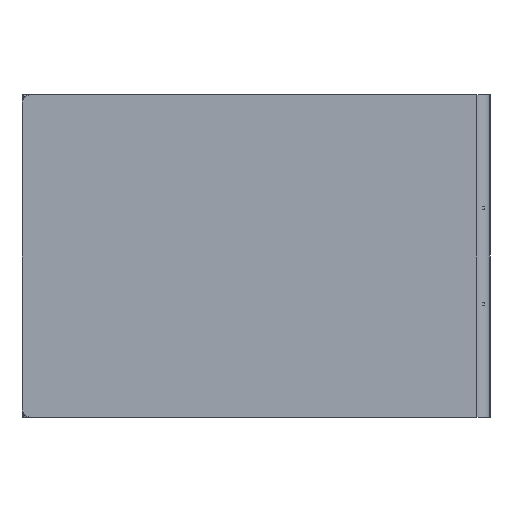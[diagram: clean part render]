
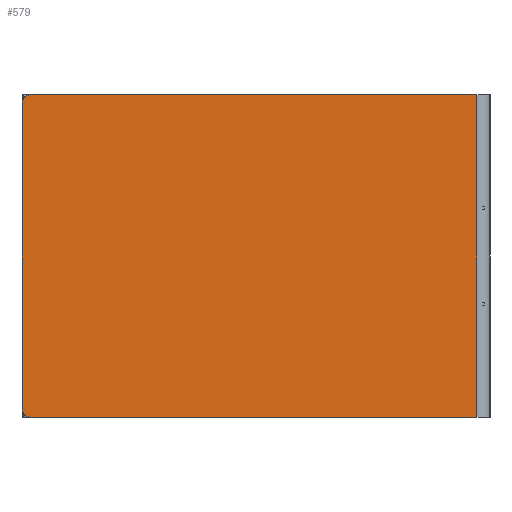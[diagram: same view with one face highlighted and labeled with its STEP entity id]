
A CAD part, left-side view. The second image highlights one B-rep face of the part: STEP entity #579.
In plain terms, the highlighted planar face has unit normal (-1, 0, 0).
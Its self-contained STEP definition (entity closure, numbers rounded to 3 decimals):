
#116 = CARTESIAN_POINT ( 'NONE',  ( -11., 90., -345. ) ) ;
#237 = EDGE_CURVE ( 'NONE', #1514, #3612, #1629, .T. ) ;
#274 = CARTESIAN_POINT ( 'NONE',  ( -11., 90., -335. ) ) ;
#392 = CARTESIAN_POINT ( 'NONE',  ( -11., -396., -345. ) ) ;
#579 = ADVANCED_FACE ( 'NONE', ( #2482 ), #3738, .T. ) ;
#617 = DIRECTION ( 'NONE',  ( 0., 0., 1. ) ) ;
#640 = LINE ( 'NONE', #2226, #822 ) ;
#702 = DIRECTION ( 'NONE',  ( 0., 1., 0. ) ) ;
#723 = EDGE_CURVE ( 'NONE', #1523, #3334, #2907, .T. ) ;
#734 = DIRECTION ( 'NONE',  ( 0., -1., 0. ) ) ;
#754 = DIRECTION ( 'NONE',  ( -1., 0., 0. ) ) ;
#822 = VECTOR ( 'NONE', #617, 1000. ) ;
#912 = ORIENTED_EDGE ( 'NONE', *, *, #237, .T. ) ;
#940 = CARTESIAN_POINT ( 'NONE',  ( -11., 80., 0. ) ) ;
#1027 = DIRECTION ( 'NONE',  ( 0., 0., 1. ) ) ;
#1114 = DIRECTION ( 'NONE',  ( 0., 0., -1. ) ) ;
#1126 = ORIENTED_EDGE ( 'NONE', *, *, #723, .T. ) ;
#1209 = AXIS2_PLACEMENT_3D ( 'NONE', #3115, #754, #1027 ) ;
#1216 = CARTESIAN_POINT ( 'NONE',  ( -11., 80., -10. ) ) ;
#1355 = AXIS2_PLACEMENT_3D ( 'NONE', #3526, #3936, #2523 ) ;
#1425 = CARTESIAN_POINT ( 'NONE',  ( -11., 90., -345. ) ) ;
#1440 = EDGE_CURVE ( 'NONE', #3636, #1792, #3608, .T. ) ;
#1514 = VERTEX_POINT ( 'NONE', #1785 ) ;
#1523 = VERTEX_POINT ( 'NONE', #1805 ) ;
#1629 = LINE ( 'NONE', #2591, #1686 ) ;
#1682 = VECTOR ( 'NONE', #1114, 1000. ) ;
#1686 = VECTOR ( 'NONE', #702, 1000. ) ;
#1785 = CARTESIAN_POINT ( 'NONE',  ( -11., -396., 0. ) ) ;
#1792 = VERTEX_POINT ( 'NONE', #274 ) ;
#1805 = CARTESIAN_POINT ( 'NONE',  ( -11., 80., -345. ) ) ;
#2061 = ORIENTED_EDGE ( 'NONE', *, *, #1440, .T. ) ;
#2105 = ORIENTED_EDGE ( 'NONE', *, *, #3679, .T. ) ;
#2148 = CARTESIAN_POINT ( 'NONE',  ( -11., 90., -10. ) ) ;
#2180 = DIRECTION ( 'NONE',  ( -1., 0., 0. ) ) ;
#2226 = CARTESIAN_POINT ( 'NONE',  ( -11., -396., -345. ) ) ;
#2482 = FACE_OUTER_BOUND ( 'NONE', #3146, .T. ) ;
#2523 = DIRECTION ( 'NONE',  ( 0., 0., 1. ) ) ;
#2530 = AXIS2_PLACEMENT_3D ( 'NONE', #1216, #2180, #3745 ) ;
#2591 = CARTESIAN_POINT ( 'NONE',  ( -11., 90., 0. ) ) ;
#2907 = LINE ( 'NONE', #116, #4044 ) ;
#2992 = EDGE_CURVE ( 'NONE', #3334, #1514, #640, .T. ) ;
#3115 = CARTESIAN_POINT ( 'NONE',  ( -11., 0., 0. ) ) ;
#3146 = EDGE_LOOP ( 'NONE', ( #2061, #3969, #1126, #3813, #912, #2105 ) ) ;
#3334 = VERTEX_POINT ( 'NONE', #392 ) ;
#3391 = EDGE_CURVE ( 'NONE', #1792, #1523, #3860, .T. ) ;
#3457 = CIRCLE ( 'NONE', #2530, 10. ) ;
#3526 = CARTESIAN_POINT ( 'NONE',  ( -11., 80., -335. ) ) ;
#3608 = LINE ( 'NONE', #1425, #1682 ) ;
#3612 = VERTEX_POINT ( 'NONE', #940 ) ;
#3636 = VERTEX_POINT ( 'NONE', #2148 ) ;
#3679 = EDGE_CURVE ( 'NONE', #3612, #3636, #3457, .T. ) ;
#3738 = PLANE ( 'NONE',  #1209 ) ;
#3745 = DIRECTION ( 'NONE',  ( 0., 0., 1. ) ) ;
#3813 = ORIENTED_EDGE ( 'NONE', *, *, #2992, .T. ) ;
#3860 = CIRCLE ( 'NONE', #1355, 10. ) ;
#3936 = DIRECTION ( 'NONE',  ( -1., 0., 0. ) ) ;
#3969 = ORIENTED_EDGE ( 'NONE', *, *, #3391, .T. ) ;
#4044 = VECTOR ( 'NONE', #734, 1000. ) ;
